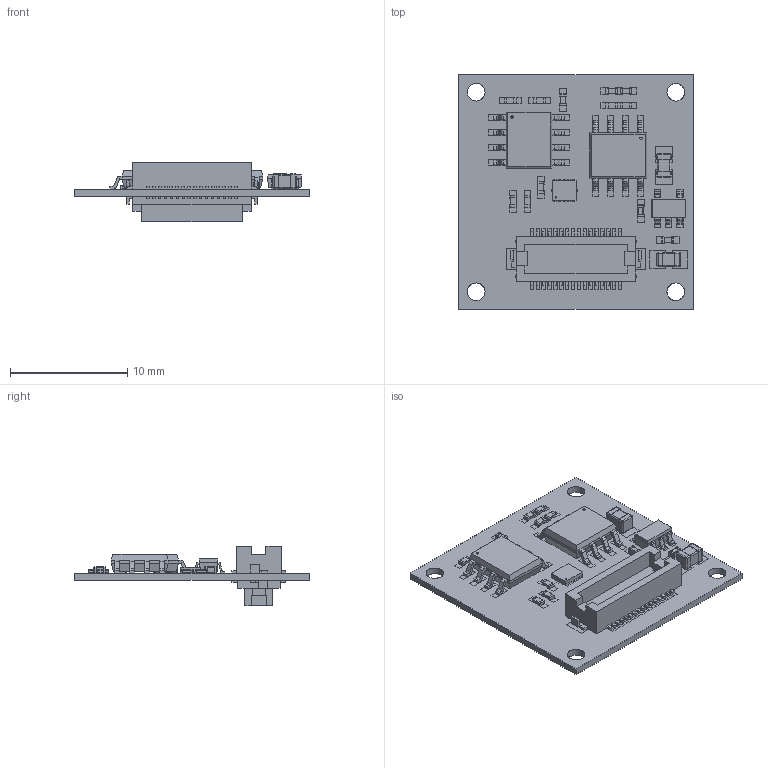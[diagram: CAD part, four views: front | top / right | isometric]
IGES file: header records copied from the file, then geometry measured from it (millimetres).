
Global section: file name: Filename.iges; native system: Open CASCADE 7.4; preprocessor: Open CASCADE IGES processor 7.4; date: 20200715.001241; units: millimetre
Bounding box: 20 x 20 x 5.1 mm (x, y, z)
Surface area: 2260.3 mm2 (no closed solid volume)
Topology: 0 solids, 0 shells, 4219 faces, 20370 edges, 22944 vertices
Faces by surface type: plane 3797, revolution 422
